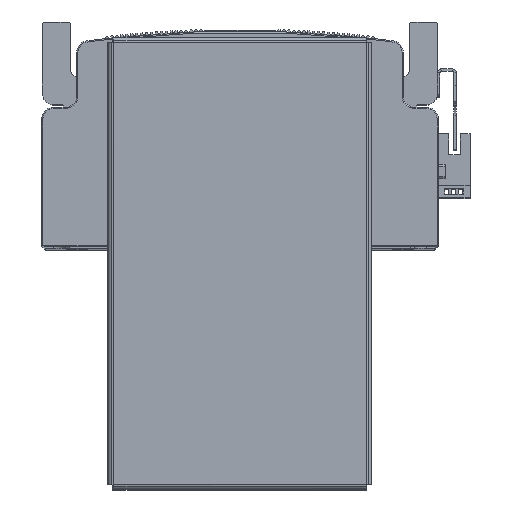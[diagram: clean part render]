
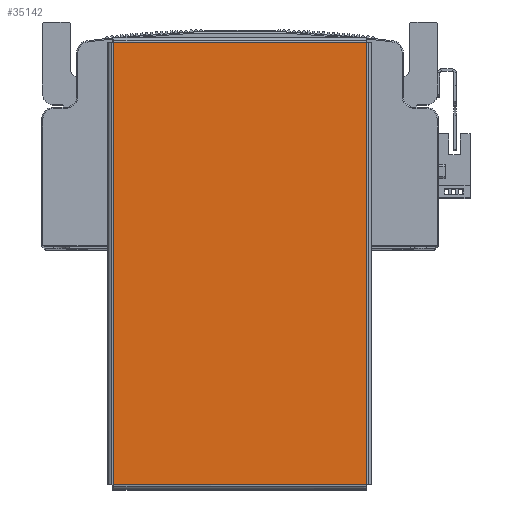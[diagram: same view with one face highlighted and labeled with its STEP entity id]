
A CAD part, top view. The second image highlights one B-rep face of the part: STEP entity #35142.
In plain terms, the highlighted planar face has unit normal (0, 0, 1) as drawn and (0, -1, 0) by its records, which use the part's own axes.
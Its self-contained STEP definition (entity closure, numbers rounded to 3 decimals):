
#2133 = EDGE_LOOP ( 'NONE', ( #46376, #46361, #46385, #46349 ) ) ;
#3315 = VERTEX_POINT ( 'NONE', #5895 ) ;
#3342 = VERTEX_POINT ( 'NONE', #5947 ) ;
#3363 = VERTEX_POINT ( 'NONE', #5967 ) ;
#3372 = VERTEX_POINT ( 'NONE', #6003 ) ;
#5895 = CARTESIAN_POINT ( 'NONE',  ( 94.763, -1.5, 54.363 ) ) ;
#5947 = CARTESIAN_POINT ( 'NONE',  ( -94.763, -1.5, 54.363 ) ) ;
#5967 = CARTESIAN_POINT ( 'NONE',  ( -94.763, -1.5, -54.363 ) ) ;
#6003 = CARTESIAN_POINT ( 'NONE',  ( 94.763, -1.5, -54.363 ) ) ;
#9339 = VECTOR ( 'NONE', #10404, 1000. ) ;
#9355 = LINE ( 'NONE', #10402, #9339 ) ;
#9459 = VECTOR ( 'NONE', #10760, 1000. ) ;
#9470 = LINE ( 'NONE', #10740, #9459 ) ;
#9479 = LINE ( 'NONE', #10910, #9486 ) ;
#9486 = VECTOR ( 'NONE', #10887, 1000. ) ;
#9505 = VECTOR ( 'NONE', #10900, 1000. ) ;
#9532 = LINE ( 'NONE', #10878, #9505 ) ;
#10402 = CARTESIAN_POINT ( 'NONE',  ( 94.793, -1.5, 54.363 ) ) ;
#10404 = DIRECTION ( 'NONE',  ( -1., 0., 0. ) ) ;
#10740 = CARTESIAN_POINT ( 'NONE',  ( -94.763, -1.5, 54.393 ) ) ;
#10760 = DIRECTION ( 'NONE',  ( 0., 0., -1. ) ) ;
#10878 = CARTESIAN_POINT ( 'NONE',  ( 94.763, -1.5, -54.393 ) ) ;
#10887 = DIRECTION ( 'NONE',  ( 1., 0., 0. ) ) ;
#10900 = DIRECTION ( 'NONE',  ( 0., 0., 1. ) ) ;
#10910 = CARTESIAN_POINT ( 'NONE',  ( -94.793, -1.5, -54.363 ) ) ;
#11392 = AXIS2_PLACEMENT_3D ( 'NONE', #16089, #16101, #16074 ) ;
#15175 = FACE_OUTER_BOUND ( 'NONE', #2133, .T. ) ;
#16074 = DIRECTION ( 'NONE',  ( 0., 0., 1. ) ) ;
#16089 = CARTESIAN_POINT ( 'NONE',  ( 0., -1.5, 0. ) ) ;
#16101 = DIRECTION ( 'NONE',  ( 0., 1., 0. ) ) ;
#16109 = PLANE ( 'NONE',  #11392 ) ;
#29895 = EDGE_CURVE ( 'NONE', #3315, #3342, #9355, .T. ) ;
#29985 = EDGE_CURVE ( 'NONE', #3342, #3363, #9470, .T. ) ;
#30023 = EDGE_CURVE ( 'NONE', #3363, #3372, #9479, .T. ) ;
#30024 = EDGE_CURVE ( 'NONE', #3372, #3315, #9532, .T. ) ;
#35142 = ADVANCED_FACE ( 'NONE', ( #15175 ), #16109, .F. ) ;
#46349 = ORIENTED_EDGE ( 'NONE', *, *, #30024, .T. ) ;
#46361 = ORIENTED_EDGE ( 'NONE', *, *, #29985, .T. ) ;
#46376 = ORIENTED_EDGE ( 'NONE', *, *, #29895, .T. ) ;
#46385 = ORIENTED_EDGE ( 'NONE', *, *, #30023, .T. ) ;
